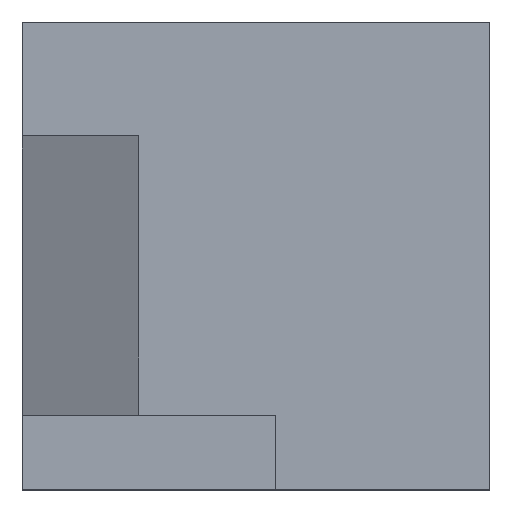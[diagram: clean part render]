
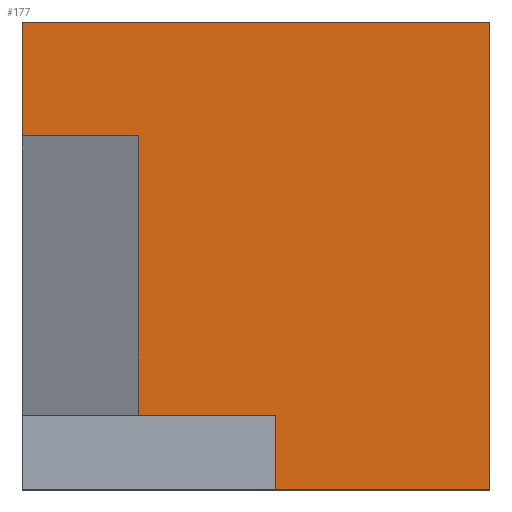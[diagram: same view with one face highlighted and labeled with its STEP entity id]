
A CAD part, top view. The second image highlights one B-rep face of the part: STEP entity #177.
In plain terms, the highlighted planar face has unit normal (0, 0, 1).
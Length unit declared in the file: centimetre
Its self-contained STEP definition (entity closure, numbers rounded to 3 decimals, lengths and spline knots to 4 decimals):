
#1 = EDGE_CURVE ( 'NONE', #618, #632, #778, .T. ) ;
#8 = EDGE_CURVE ( 'NONE', #785, #640, #413, .T. ) ;
#42 = CARTESIAN_POINT ( 'NONE',  ( 542.5318, 158.729, 1000. ) ) ;
#53 = EDGE_CURVE ( 'NONE', #1213, #106, #610, .T. ) ;
#71 = VERTEX_POINT ( 'NONE', #952 ) ;
#79 = CARTESIAN_POINT ( 'NONE',  ( 248.658, 756.2241, 1000. ) ) ;
#90 = EDGE_CURVE ( 'NONE', #71, #618, #843, .T. ) ;
#97 = VERTEX_POINT ( 'NONE', #1046 ) ;
#100 = CARTESIAN_POINT ( 'NONE',  ( 248.658, 158.729, 1000. ) ) ;
#106 = VERTEX_POINT ( 'NONE', #1039 ) ;
#124 = DIRECTION ( 'NONE',  ( -1., 0., 0. ) ) ;
#131 = LINE ( 'NONE', #508, #1085 ) ;
#136 = CARTESIAN_POINT ( 'NONE',  ( 0., 1000., 1000. ) ) ;
#177 = ADVANCED_FACE ( 'NONE', ( #296 ), #289, .T. ) ;
#180 = DIRECTION ( 'NONE',  ( 0., 0., 1. ) ) ;
#199 = EDGE_LOOP ( 'NONE', ( #458, #862, #427, #1074, #444, #343, #1038, #674 ) ) ;
#202 = VECTOR ( 'NONE', #797, 100. ) ;
#215 = EDGE_CURVE ( 'NONE', #1213, #71, #131, .T. ) ;
#226 = CARTESIAN_POINT ( 'NONE',  ( 0., 1000., 1000. ) ) ;
#258 = VECTOR ( 'NONE', #983, 100. ) ;
#276 = CARTESIAN_POINT ( 'NONE',  ( 0., 0., 1000. ) ) ;
#289 = PLANE ( 'NONE',  #1152 ) ;
#296 = FACE_OUTER_BOUND ( 'NONE', #199, .T. ) ;
#328 = DIRECTION ( 'NONE',  ( -1., 0., 0. ) ) ;
#343 = ORIENTED_EDGE ( 'NONE', *, *, #1186, .T. ) ;
#413 = LINE ( 'NONE', #868, #202 ) ;
#424 = CARTESIAN_POINT ( 'NONE',  ( 542.5318, 0., 1000. ) ) ;
#427 = ORIENTED_EDGE ( 'NONE', *, *, #215, .T. ) ;
#430 = DIRECTION ( 'NONE',  ( 0., 1., 0. ) ) ;
#444 = ORIENTED_EDGE ( 'NONE', *, *, #1, .T. ) ;
#458 = ORIENTED_EDGE ( 'NONE', *, *, #652, .F. ) ;
#504 = EDGE_CURVE ( 'NONE', #785, #97, #523, .T. ) ;
#508 = CARTESIAN_POINT ( 'NONE',  ( 0., 0., 1000. ) ) ;
#523 = LINE ( 'NONE', #625, #573 ) ;
#573 = VECTOR ( 'NONE', #1003, 100. ) ;
#610 = LINE ( 'NONE', #424, #914 ) ;
#618 = VERTEX_POINT ( 'NONE', #958 ) ;
#622 = CARTESIAN_POINT ( 'NONE',  ( 542.5318, 0., 1000. ) ) ;
#625 = CARTESIAN_POINT ( 'NONE',  ( 248.658, 756.2241, 1000. ) ) ;
#632 = VERTEX_POINT ( 'NONE', #1037 ) ;
#640 = VERTEX_POINT ( 'NONE', #100 ) ;
#648 = DIRECTION ( 'NONE',  ( 1., 0., 0. ) ) ;
#652 = EDGE_CURVE ( 'NONE', #106, #640, #1136, .T. ) ;
#674 = ORIENTED_EDGE ( 'NONE', *, *, #8, .T. ) ;
#776 = DIRECTION ( 'NONE',  ( 1., 0., 0. ) ) ;
#778 = LINE ( 'NONE', #136, #1031 ) ;
#785 = VERTEX_POINT ( 'NONE', #79 ) ;
#797 = DIRECTION ( 'NONE',  ( 0., -1., 0. ) ) ;
#843 = LINE ( 'NONE', #1218, #1128 ) ;
#862 = ORIENTED_EDGE ( 'NONE', *, *, #53, .F. ) ;
#868 = CARTESIAN_POINT ( 'NONE',  ( 248.658, 756.2241, 1000. ) ) ;
#914 = VECTOR ( 'NONE', #430, 100. ) ;
#936 = DIRECTION ( 'NONE',  ( 0., 1., 0. ) ) ;
#952 = CARTESIAN_POINT ( 'NONE',  ( 1000., 0., 1000. ) ) ;
#958 = CARTESIAN_POINT ( 'NONE',  ( 1000., 1000., 1000. ) ) ;
#983 = DIRECTION ( 'NONE',  ( 0., -1., 0. ) ) ;
#1003 = DIRECTION ( 'NONE',  ( -1., 0., 0. ) ) ;
#1031 = VECTOR ( 'NONE', #124, 100. ) ;
#1037 = CARTESIAN_POINT ( 'NONE',  ( 0., 1000., 1000. ) ) ;
#1038 = ORIENTED_EDGE ( 'NONE', *, *, #504, .F. ) ;
#1039 = CARTESIAN_POINT ( 'NONE',  ( 542.5318, 158.729, 1000. ) ) ;
#1046 = CARTESIAN_POINT ( 'NONE',  ( 0., 756.2241, 1000. ) ) ;
#1074 = ORIENTED_EDGE ( 'NONE', *, *, #90, .T. ) ;
#1082 = VECTOR ( 'NONE', #328, 100. ) ;
#1085 = VECTOR ( 'NONE', #776, 100. ) ;
#1128 = VECTOR ( 'NONE', #936, 100. ) ;
#1136 = LINE ( 'NONE', #42, #1082 ) ;
#1152 = AXIS2_PLACEMENT_3D ( 'NONE', #276, #180, #648 ) ;
#1167 = LINE ( 'NONE', #226, #258 ) ;
#1186 = EDGE_CURVE ( 'NONE', #632, #97, #1167, .T. ) ;
#1213 = VERTEX_POINT ( 'NONE', #622 ) ;
#1218 = CARTESIAN_POINT ( 'NONE',  ( 1000., 1000., 1000. ) ) ;
